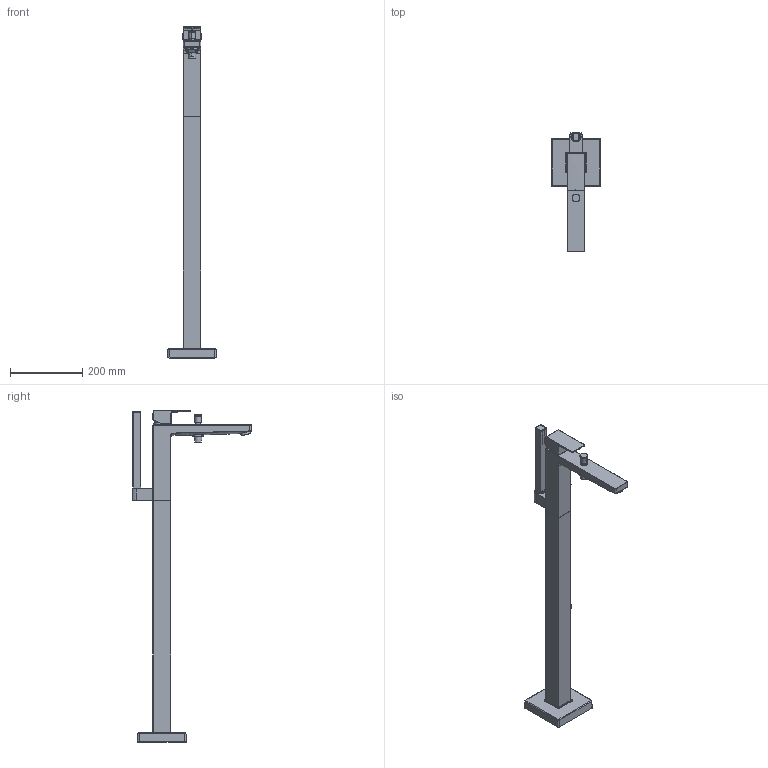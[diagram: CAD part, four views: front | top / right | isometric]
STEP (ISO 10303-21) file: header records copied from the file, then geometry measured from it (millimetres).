
FILE_DESCRIPTION(/* description */ (''),/* implementation_level */ '2;1');
FILE_NAME(/* name */ 'MH5250000010_MH5250000046',/* time_stamp */ '2023-08-14T08:28:00+02:00',/* author */ (''),/* organization */ (''),/* preprocessor_version */ 'ST-DEVELOPER v15',/* originating_system */ '',/* authorisation */ '');
FILE_SCHEMA (('AUTOMOTIVE_DESIGN'));
Products named in the file (1): Document
Bounding box: 135 x 329.32 x 919.94 mm (x, y, z)
Volume: 656463.3 mm3; surface area: 443586.5 mm2
Topology: 59 solids, 69 shells, 2115 faces, 4961 edges, 3105 vertices
Faces by surface type: bspline 1174, plane 941
Entity records: 103324 total; most frequent: CARTESIAN_POINT 72719, ORIENTED_EDGE 9703, EDGE_CURVE 4939, VERTEX_POINT 3107, B_SPLINE_CURVE_WITH_KNOTS 3010, EDGE_LOOP 2310, ADVANCED_FACE 2115, FACE_OUTER_BOUND 2115
